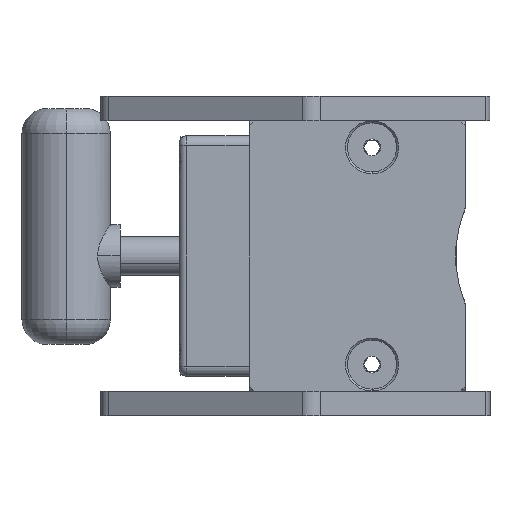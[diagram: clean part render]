
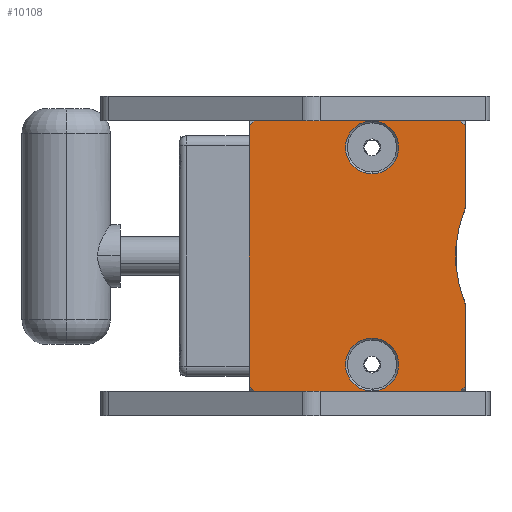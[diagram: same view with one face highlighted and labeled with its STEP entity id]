
A CAD part, left-side view. The second image highlights one B-rep face of the part: STEP entity #10108.
In plain terms, the highlighted planar face has unit normal (-1, 0, 0).
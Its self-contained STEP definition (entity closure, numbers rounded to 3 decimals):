
#891 = EDGE_LOOP ( 'NONE', ( #8358, #8351 ) ) ;
#975 = EDGE_LOOP ( 'NONE', ( #8174, #8172 ) ) ;
#976 = EDGE_LOOP ( 'NONE', ( #8279, #8297, #8280, #8182, #8276, #8180, #8275, #8206, #8227, #8302, #8362, #8339 ) ) ;
#3455 = CARTESIAN_POINT ( 'NONE',  ( -23.63, 19., 27.492 ) ) ;
#3515 = CARTESIAN_POINT ( 'NONE',  ( -23.63, 19., -16.692 ) ) ;
#3535 = CARTESIAN_POINT ( 'NONE',  ( -23.63, 0., -10.392 ) ) ;
#3711 = CARTESIAN_POINT ( 'NONE',  ( -23.63, 19., 16.692 ) ) ;
#3826 = CARTESIAN_POINT ( 'NONE',  ( -23.63, 19., -27.492 ) ) ;
#3830 = CARTESIAN_POINT ( 'NONE',  ( -23.63, 44., 26.5 ) ) ;
#3835 = CARTESIAN_POINT ( 'NONE',  ( -23.63, 44., -26.5 ) ) ;
#3858 = VERTEX_POINT ( 'NONE', #4013 ) ;
#3861 = CARTESIAN_POINT ( 'NONE',  ( -23.63, 0.214, 9.279 ) ) ;
#3862 = CARTESIAN_POINT ( 'NONE',  ( -23.63, 0., 26.5 ) ) ;
#3868 = CARTESIAN_POINT ( 'NONE',  ( -23.63, 43., -27.5 ) ) ;
#3894 = CARTESIAN_POINT ( 'NONE',  ( -23.63, 0., -26.5 ) ) ;
#3896 = CARTESIAN_POINT ( 'NONE',  ( -23.63, 0., 10.392 ) ) ;
#3914 = CARTESIAN_POINT ( 'NONE',  ( -23.63, 0.214, -9.279 ) ) ;
#3945 = CARTESIAN_POINT ( 'NONE',  ( -23.63, 1., -27.5 ) ) ;
#3987 = VERTEX_POINT ( 'NONE', #3992 ) ;
#3992 = CARTESIAN_POINT ( 'NONE',  ( -23.63, 43., 27.5 ) ) ;
#4013 = CARTESIAN_POINT ( 'NONE',  ( -23.63, 1., 27.5 ) ) ;
#4074 = VERTEX_POINT ( 'NONE', #3455 ) ;
#4095 = VERTEX_POINT ( 'NONE', #3861 ) ;
#4096 = VERTEX_POINT ( 'NONE', #3862 ) ;
#4097 = VERTEX_POINT ( 'NONE', #3896 ) ;
#4098 = VERTEX_POINT ( 'NONE', #3894 ) ;
#4102 = VERTEX_POINT ( 'NONE', #3914 ) ;
#4106 = VERTEX_POINT ( 'NONE', #3945 ) ;
#4159 = VERTEX_POINT ( 'NONE', #3868 ) ;
#4245 = VERTEX_POINT ( 'NONE', #3515 ) ;
#4269 = VERTEX_POINT ( 'NONE', #3535 ) ;
#4312 = VERTEX_POINT ( 'NONE', #3826 ) ;
#4441 = VERTEX_POINT ( 'NONE', #3830 ) ;
#4443 = VERTEX_POINT ( 'NONE', #3835 ) ;
#4465 = VERTEX_POINT ( 'NONE', #3711 ) ;
#4587 = EDGE_CURVE ( 'NONE', #4441, #4443, #6320, .T. ) ;
#4589 = EDGE_CURVE ( 'NONE', #4312, #4245, #6529, .T. ) ;
#4592 = EDGE_CURVE ( 'NONE', #4098, #4269, #6438, .T. ) ;
#4595 = EDGE_CURVE ( 'NONE', #4269, #4102, #6449, .T. ) ;
#4604 = EDGE_CURVE ( 'NONE', #4095, #4097, #6463, .T. ) ;
#4606 = EDGE_CURVE ( 'NONE', #4097, #4096, #6464, .T. ) ;
#4608 = EDGE_CURVE ( 'NONE', #4245, #4312, #6469, .T. ) ;
#4609 = EDGE_CURVE ( 'NONE', #4102, #4095, #6470, .T. ) ;
#4614 = EDGE_CURVE ( 'NONE', #3858, #3987, #6471, .T. ) ;
#4615 = EDGE_CURVE ( 'NONE', #4106, #4098, #6478, .T. ) ;
#4616 = EDGE_CURVE ( 'NONE', #4074, #4465, #6482, .T. ) ;
#4617 = EDGE_CURVE ( 'NONE', #3987, #4441, #6462, .T. ) ;
#4631 = EDGE_CURVE ( 'NONE', #4159, #4106, #6419, .T. ) ;
#4633 = EDGE_CURVE ( 'NONE', #4443, #4159, #6530, .T. ) ;
#4634 = EDGE_CURVE ( 'NONE', #4096, #3858, #6429, .T. ) ;
#4649 = EDGE_CURVE ( 'NONE', #4465, #4074, #6327, .T. ) ;
#5364 = AXIS2_PLACEMENT_3D ( 'NONE', #8745, #8734, #8733 ) ;
#5397 = AXIS2_PLACEMENT_3D ( 'NONE', #8883, #8882, #8881 ) ;
#5401 = AXIS2_PLACEMENT_3D ( 'NONE', #8863, #8861, #8860 ) ;
#5407 = AXIS2_PLACEMENT_3D ( 'NONE', #8841, #8831, #8830 ) ;
#5415 = AXIS2_PLACEMENT_3D ( 'NONE', #8862, #8849, #8848 ) ;
#5417 = AXIS2_PLACEMENT_3D ( 'NONE', #8866, #8852, #8851 ) ;
#5483 = AXIS2_PLACEMENT_3D ( 'NONE', #8896, #8895, #8894 ) ;
#6320 = LINE ( 'NONE', #8901, #6333 ) ;
#6327 = CIRCLE ( 'NONE', #5364, 5.4 ) ;
#6333 = VECTOR ( 'NONE', #8900, 1000. ) ;
#6419 = LINE ( 'NONE', #8780, #6434 ) ;
#6428 = VECTOR ( 'NONE', #8774, 1000. ) ;
#6429 = LINE ( 'NONE', #8775, #6428 ) ;
#6431 = VECTOR ( 'NONE', #8776, 1000. ) ;
#6434 = VECTOR ( 'NONE', #8779, 1000. ) ;
#6438 = LINE ( 'NONE', #8889, #6441 ) ;
#6441 = VECTOR ( 'NONE', #8888, 1000. ) ;
#6449 = CIRCLE ( 'NONE', #5397, 3. ) ;
#6462 = LINE ( 'NONE', #8829, #6476 ) ;
#6463 = CIRCLE ( 'NONE', #5401, 3. ) ;
#6464 = LINE ( 'NONE', #8857, #6465 ) ;
#6465 = VECTOR ( 'NONE', #8856, 1000. ) ;
#6469 = CIRCLE ( 'NONE', #5417, 5.4 ) ;
#6470 = CIRCLE ( 'NONE', #5415, 25. ) ;
#6471 = LINE ( 'NONE', #8836, #6474 ) ;
#6474 = VECTOR ( 'NONE', #8835, 1000. ) ;
#6476 = VECTOR ( 'NONE', #8828, 1000. ) ;
#6478 = LINE ( 'NONE', #8834, #6479 ) ;
#6479 = VECTOR ( 'NONE', #8833, 1000. ) ;
#6482 = CIRCLE ( 'NONE', #5407, 5.4 ) ;
#6529 = CIRCLE ( 'NONE', #5483, 5.4 ) ;
#6530 = LINE ( 'NONE', #8792, #6431 ) ;
#7476 = AXIS2_PLACEMENT_3D ( 'NONE', #9558, #9560, #9561 ) ;
#8172 = ORIENTED_EDGE ( 'NONE', *, *, #4589, .F. ) ;
#8174 = ORIENTED_EDGE ( 'NONE', *, *, #4608, .F. ) ;
#8180 = ORIENTED_EDGE ( 'NONE', *, *, #4617, .T. ) ;
#8182 = ORIENTED_EDGE ( 'NONE', *, *, #4634, .T. ) ;
#8206 = ORIENTED_EDGE ( 'NONE', *, *, #4633, .T. ) ;
#8227 = ORIENTED_EDGE ( 'NONE', *, *, #4631, .T. ) ;
#8275 = ORIENTED_EDGE ( 'NONE', *, *, #4587, .T. ) ;
#8276 = ORIENTED_EDGE ( 'NONE', *, *, #4614, .T. ) ;
#8279 = ORIENTED_EDGE ( 'NONE', *, *, #4609, .T. ) ;
#8280 = ORIENTED_EDGE ( 'NONE', *, *, #4606, .T. ) ;
#8297 = ORIENTED_EDGE ( 'NONE', *, *, #4604, .T. ) ;
#8302 = ORIENTED_EDGE ( 'NONE', *, *, #4615, .T. ) ;
#8339 = ORIENTED_EDGE ( 'NONE', *, *, #4595, .T. ) ;
#8351 = ORIENTED_EDGE ( 'NONE', *, *, #4649, .F. ) ;
#8358 = ORIENTED_EDGE ( 'NONE', *, *, #4616, .F. ) ;
#8362 = ORIENTED_EDGE ( 'NONE', *, *, #4592, .T. ) ;
#8733 = DIRECTION ( 'NONE',  ( 0., 0., 1. ) ) ;
#8734 = DIRECTION ( 'NONE',  ( -1., 0., 0. ) ) ;
#8745 = CARTESIAN_POINT ( 'NONE',  ( -23.63, 19., 22.092 ) ) ;
#8774 = DIRECTION ( 'NONE',  ( 0., 0.707, 0.707 ) ) ;
#8775 = CARTESIAN_POINT ( 'NONE',  ( -23.63, 0., 26.5 ) ) ;
#8776 = DIRECTION ( 'NONE',  ( 0., -0.707, -0.707 ) ) ;
#8779 = DIRECTION ( 'NONE',  ( 0., -1., 0. ) ) ;
#8780 = CARTESIAN_POINT ( 'NONE',  ( -23.63, 44., -27.5 ) ) ;
#8792 = CARTESIAN_POINT ( 'NONE',  ( -23.63, 44., -26.5 ) ) ;
#8828 = DIRECTION ( 'NONE',  ( 0., 0.707, -0.707 ) ) ;
#8829 = CARTESIAN_POINT ( 'NONE',  ( -23.63, 43., 27.5 ) ) ;
#8830 = DIRECTION ( 'NONE',  ( 0., 0., 1. ) ) ;
#8831 = DIRECTION ( 'NONE',  ( -1., 0., 0. ) ) ;
#8833 = DIRECTION ( 'NONE',  ( 0., -0.707, 0.707 ) ) ;
#8834 = CARTESIAN_POINT ( 'NONE',  ( -23.63, 1., -27.5 ) ) ;
#8835 = DIRECTION ( 'NONE',  ( 0., 1., 0. ) ) ;
#8836 = CARTESIAN_POINT ( 'NONE',  ( -23.63, 0., 27.5 ) ) ;
#8841 = CARTESIAN_POINT ( 'NONE',  ( -23.63, 19., 22.092 ) ) ;
#8848 = DIRECTION ( 'NONE',  ( 0., 0., -1. ) ) ;
#8849 = DIRECTION ( 'NONE',  ( 1., 0., 0. ) ) ;
#8851 = DIRECTION ( 'NONE',  ( 0., 0., 1. ) ) ;
#8852 = DIRECTION ( 'NONE',  ( -1., 0., 0. ) ) ;
#8856 = DIRECTION ( 'NONE',  ( 0., 0., 1. ) ) ;
#8857 = CARTESIAN_POINT ( 'NONE',  ( -23.63, 0., 9.798 ) ) ;
#8860 = DIRECTION ( 'NONE',  ( 0., 0., -1. ) ) ;
#8861 = DIRECTION ( 'NONE',  ( -1., 0., 0. ) ) ;
#8862 = CARTESIAN_POINT ( 'NONE',  ( -23.63, -23., 0. ) ) ;
#8863 = CARTESIAN_POINT ( 'NONE',  ( -23.63, 3., 10.392 ) ) ;
#8866 = CARTESIAN_POINT ( 'NONE',  ( -23.63, 19., -22.092 ) ) ;
#8881 = DIRECTION ( 'NONE',  ( 0., 0., -1. ) ) ;
#8882 = DIRECTION ( 'NONE',  ( -1., 0., 0. ) ) ;
#8883 = CARTESIAN_POINT ( 'NONE',  ( -23.63, 3., -10.392 ) ) ;
#8888 = DIRECTION ( 'NONE',  ( 0., 0., 1. ) ) ;
#8889 = CARTESIAN_POINT ( 'NONE',  ( -23.63, 0., -27.5 ) ) ;
#8894 = DIRECTION ( 'NONE',  ( 0., 0., 1. ) ) ;
#8895 = DIRECTION ( 'NONE',  ( -1., 0., 0. ) ) ;
#8896 = CARTESIAN_POINT ( 'NONE',  ( -23.63, 19., -22.092 ) ) ;
#8900 = DIRECTION ( 'NONE',  ( 0., 0., -1. ) ) ;
#8901 = CARTESIAN_POINT ( 'NONE',  ( -23.63, 44., 27.5 ) ) ;
#9558 = CARTESIAN_POINT ( 'NONE',  ( -23.63, -23., 0. ) ) ;
#9559 = PLANE ( 'NONE',  #7476 ) ;
#9560 = DIRECTION ( 'NONE',  ( 1., 0., 0. ) ) ;
#9561 = DIRECTION ( 'NONE',  ( 0., 0., -1. ) ) ;
#10108 = ADVANCED_FACE ( 'NONE', ( #10329, #10334, #10336 ), #9559, .F. ) ;
#10329 = FACE_BOUND ( 'NONE', #891, .T. ) ;
#10334 = FACE_BOUND ( 'NONE', #975, .T. ) ;
#10336 = FACE_OUTER_BOUND ( 'NONE', #976, .T. ) ;
